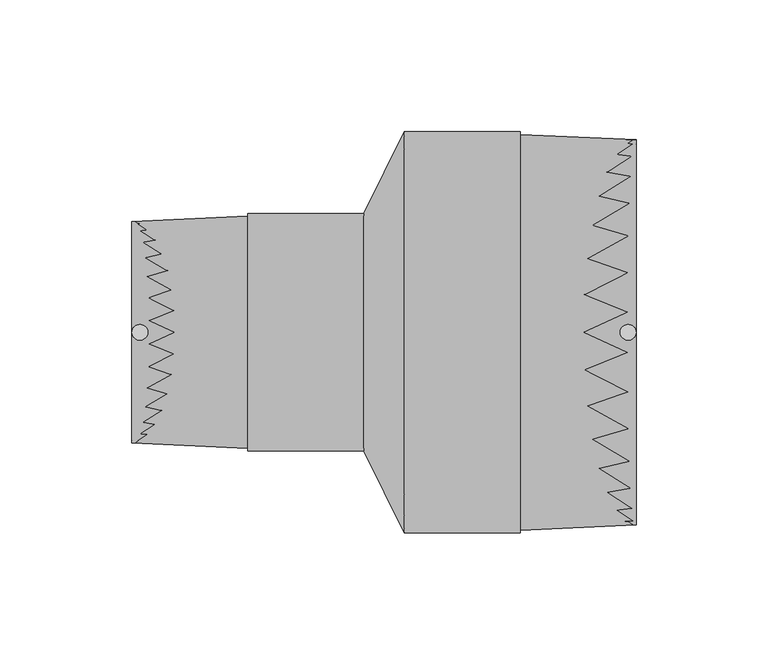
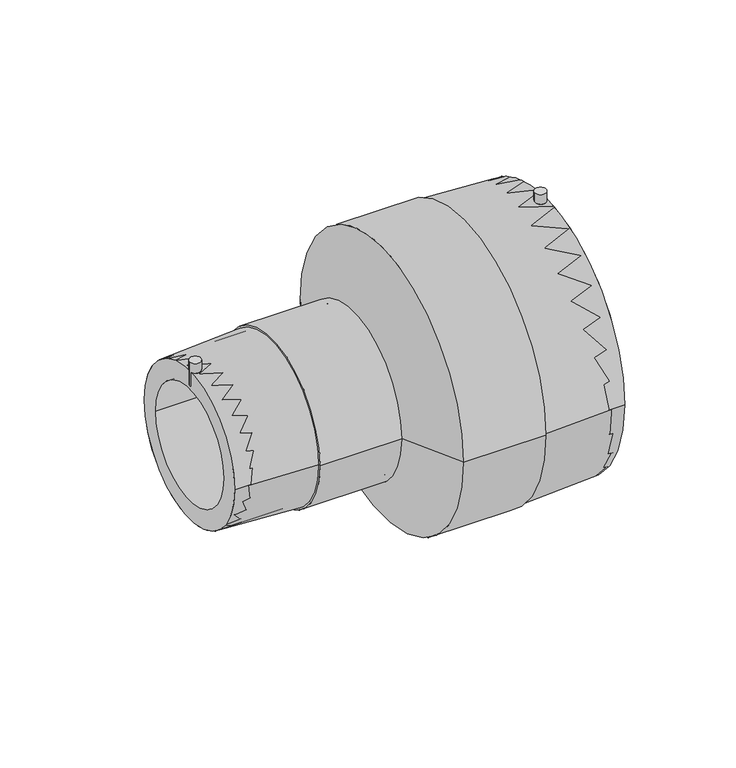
"""IFC4 building model written with IfcOpenShell, lengths in millimetres: pipe fitting geometry, EGB_VASEN_ PPR_Manguito reductor electrosoldable WXRD110 : Manguito reductor electrosoldable WXRD110."""

from ifc_helpers import new_model, si_unit, point, frame, frame_2d, origin, origin_2d, place, context, project, spatial, polyline, circle_curve, trimmed, segment, composite_curve, outline, extrude, source, transform, mapped, element, save
from ifc_brep_helpers import plane_surface, cylinder_surface, revolved_surface, advanced_brep


def pipe_fitting_9c339494(model_context):
    return source(origin(), model_context, "Body", "SolidModel", [
        extrude(outline(composite_curve([segment(trimmed(circle_curve(frame_2d((92.5, 0.0)), 3.0), [point((89.5, 0.0))], [point((95.5, 0.0))], False, "CARTESIAN"), True, "CONTINUOUS"), segment(trimmed(circle_curve(frame_2d((92.5, 0.0)), 3.0), [point((95.5, 0.0))], [point((89.5, 0.0))], False, "CARTESIAN"), True, "CONTINUOUS")], self_intersect=False)), frame((0.0, 0.0, 57.0), z_axis=(0.0, 0.0, 1.0), x_axis=(1.0, 0.0, 0.0)), (0.0, 0.0, 1.0), 21.0),
        extrude(outline(composite_curve([segment(trimmed(circle_curve(frame_2d((-92.5, 0.0)), 3.0), [point((-95.5, 0.0))], [point((-89.5, 0.0))], False, "CARTESIAN"), True, "CONTINUOUS"), segment(trimmed(circle_curve(frame_2d((-92.5, 0.0)), 3.0), [point((-89.5, 0.0))], [point((-95.5, 0.0))], False, "CARTESIAN"), True, "CONTINUOUS")], self_intersect=False)), frame((0.0, 0.0, 33.5), z_axis=(0.0, 0.0, 1.0), x_axis=(1.0, 0.0, 0.0)), (0.0, 0.0, 1.0), 13.5),
        extrude(outline(composite_curve([segment(trimmed(circle_curve(origin_2d(), 73.0), [point((-73.0, 0.0))], [point((73.0, 0.0))], False, "CARTESIAN"), True, "CONTINUOUS"), segment(trimmed(circle_curve(origin_2d(), 73.0), [point((73.0, 0.0))], [point((-73.0, 0.0))], False, "CARTESIAN"), True, "CONTINUOUS")], self_intersect=False), holes=[composite_curve([segment(trimmed(circle_curve(origin_2d(), 55.0), [point((-55.0, 0.0))], [point((55.0, 0.0))], True, "CARTESIAN"), True, "CONTINUOUS"), segment(trimmed(circle_curve(origin_2d(), 55.0), [point((55.0, 0.0))], [point((-55.0, 0.0))], True, "CARTESIAN"), True, "CONTINUOUS")], self_intersect=False)]), frame((7.64, 0.0, 0.0), z_axis=(1.0, 0.0, 0.0), x_axis=(0.0, 1.0, 0.0)), (0.0, 0.0, 1.0), 87.86),
        extrude(outline(composite_curve([segment(trimmed(circle_curve(origin_2d(), 42.0), [point((-42.0, 0.0))], [point((42.0, 0.0))], False, "CARTESIAN"), True, "CONTINUOUS"), segment(trimmed(circle_curve(origin_2d(), 42.0), [point((42.0, 0.0))], [point((-42.0, 0.0))], False, "CARTESIAN"), True, "CONTINUOUS")], self_intersect=False), holes=[composite_curve([segment(trimmed(circle_curve(origin_2d(), 31.5), [point((-31.5, 0.0))], [point((31.5, 0.0))], True, "CARTESIAN"), True, "CONTINUOUS"), segment(trimmed(circle_curve(origin_2d(), 31.5), [point((31.5, 0.0))], [point((-31.5, 0.0))], True, "CARTESIAN"), True, "CONTINUOUS")], self_intersect=False)]), frame((-95.5, 0.0, 0.0), z_axis=(1.0, 0.0, 0.0), x_axis=(0.0, 1.0, 0.0)), (0.0, 0.0, 1.0), 87.86),
        advanced_brep(
        [(7.64, -73.0, 0.0), (7.64, 73.0, 0.0), (-7.64, -42.0, 0.0), (-7.64, 42.0, 0.0)],
        [
            (0, 1, circle_curve(frame((7.64, 0.0, 0.0), z_axis=(1.0, 0.0, 0.0), x_axis=(0.0, -1.0, 0.0)), 73.0)),
            (1, 0, circle_curve(frame((7.64, 0.0, 0.0), z_axis=(1.0, 0.0, 0.0), x_axis=(0.0, 1.0, 0.0)), 73.0)),
            (2, 3, circle_curve(frame((-7.64, 0.0, 0.0), z_axis=(-1.0, 0.0, 0.0), x_axis=(0.0, 1.0, 0.0)), 42.0)),
            (3, 2, circle_curve(frame((-7.64, 0.0, 0.0), z_axis=(-1.0, 0.0, 0.0), x_axis=(0.0, -1.0, 0.0)), 42.0)),
            (3, 1),
            (0, 2),
        ],
        [
            plane_surface(frame((7.64, 0.0, 0.0), z_axis=(1.0, 0.0, 0.0), x_axis=(0.0, 0.0, -1.0))),
            plane_surface(frame((-7.64, 0.0, 0.0), z_axis=(-1.0, 0.0, 0.0), x_axis=(0.0, 0.0, -1.0))),
            revolved_surface(polyline([(-7.640000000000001, 42.00000001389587, 0.0), (7.639999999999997, 73.0, 0.0)]), (-28.3419355, 0.0, 0.0), (1.0, 0.0, 0.0)),
            revolved_surface(polyline([(-7.640000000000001, -42.00000001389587, 0.0), (7.639999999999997, -73.0, 0.0)]), (-28.3419355, 0.0, 0.0), (1.0, 0.0, 0.0)),
        ],
        [
            (0, [[1, 2]]),
            (1, [[3, 4]]),
            (2, [[-4, 5, -1, 6]]),
            (3, [[-3, -6, -2, -5]]),
        ],
    ),
        advanced_brep(
        [(7.64, -73.0, 0.0), (7.64, 73.0, 0.0), (-7.64, 42.0, 0.0), (-7.64, -42.0, 0.0), (95.5, -73.0, 0.0), (95.5, 73.0, 0.0), (51.57, -75.0, 0.0), (51.57, 75.0, 0.0), (51.57, -76.0, 0.0), (51.57, 76.0, 0.0), (7.64, -76.0, 0.0), (7.64, 76.0, 0.0), (-7.64, -45.0, 0.0), (-7.64, 45.0, 0.0), (-51.57, -45.0, 0.0), (-51.57, 45.0, 0.0), (-51.57, -44.0, 0.0), (-51.57, 44.0, 0.0), (-95.5, -42.0, 0.0), (-95.5, 42.0, 0.0)],
        [
            (0, 1, circle_curve(frame((7.64, 0.0, 0.0), z_axis=(1.0, 0.0, 0.0), x_axis=(0.0, 1.0, 0.0)), 73.0)),
            (1, 2),
            (2, 3, circle_curve(frame((-7.64, 0.0, 0.0), z_axis=(-1.0, 0.0, 0.0), x_axis=(0.0, 1.0, 0.0)), 42.0)),
            (3, 0),
            (1, 0, circle_curve(frame((7.64, 0.0, 0.0), z_axis=(1.0, 0.0, 0.0), x_axis=(0.0, 1.0, 0.0)), 73.0)),
            (3, 2, circle_curve(frame((-7.64, 0.0, 0.0), z_axis=(-1.0, 0.0, 0.0), x_axis=(0.0, 1.0, 0.0)), 42.0)),
            (4, 5, circle_curve(frame((95.5, 0.0, 0.0), z_axis=(1.0, 0.0, 0.0), x_axis=(0.0, 1.0, 0.0)), 73.0)),
            (5, 1),
            (0, 4),
            (5, 4, circle_curve(frame((95.5, 0.0, 0.0), z_axis=(1.0, 0.0, 0.0), x_axis=(0.0, 1.0, 0.0)), 73.0)),
            (6, 7, circle_curve(frame((51.57, 0.0, 0.0), z_axis=(1.0, 0.0, 0.0), x_axis=(0.0, 1.0, 0.0)), 75.0)),
            (7, 5),
            (4, 6),
            (7, 6, circle_curve(frame((51.57, 0.0, 0.0), z_axis=(1.0, 0.0, 0.0), x_axis=(0.0, 1.0, 0.0)), 75.0)),
            (8, 9, circle_curve(frame((51.57, 0.0, 0.0), z_axis=(1.0, 0.0, 0.0), x_axis=(0.0, 1.0, 0.0)), 76.0)),
            (9, 7),
            (6, 8),
            (9, 8, circle_curve(frame((51.57, 0.0, 0.0), z_axis=(1.0, 0.0, 0.0), x_axis=(0.0, 1.0, 0.0)), 76.0)),
            (10, 11, circle_curve(frame((7.64, 0.0, 0.0), z_axis=(1.0, 0.0, 0.0), x_axis=(0.0, 1.0, 0.0)), 76.0)),
            (11, 9),
            (8, 10),
            (11, 10, circle_curve(frame((7.64, 0.0, 0.0), z_axis=(1.0, 0.0, 0.0), x_axis=(0.0, 1.0, 0.0)), 76.0)),
            (12, 13, circle_curve(frame((-7.64, 0.0, 0.0), z_axis=(1.0, 0.0, 0.0), x_axis=(0.0, 1.0, 0.0)), 45.0)),
            (13, 11),
            (10, 12),
            (13, 12, circle_curve(frame((-7.64, 0.0, 0.0), z_axis=(1.0, 0.0, 0.0), x_axis=(0.0, 1.0, 0.0)), 45.0)),
            (14, 15, circle_curve(frame((-51.57, 0.0, 0.0), z_axis=(1.0, 0.0, 0.0), x_axis=(0.0, 1.0, 0.0)), 45.0)),
            (15, 13),
            (12, 14),
            (15, 14, circle_curve(frame((-51.57, 0.0, 0.0), z_axis=(1.0, 0.0, 0.0), x_axis=(0.0, 1.0, 0.0)), 45.0)),
            (16, 17, circle_curve(frame((-51.57, 0.0, 0.0), z_axis=(1.0, 0.0, 0.0), x_axis=(0.0, 1.0, 0.0)), 44.0)),
            (17, 15),
            (14, 16),
            (17, 16, circle_curve(frame((-51.57, 0.0, 0.0), z_axis=(1.0, 0.0, 0.0), x_axis=(0.0, 1.0, 0.0)), 44.0)),
            (18, 19, circle_curve(frame((-95.5, 0.0, 0.0), z_axis=(1.0, 0.0, 0.0), x_axis=(0.0, 1.0, 0.0)), 42.0)),
            (19, 17),
            (16, 18),
            (19, 18, circle_curve(frame((-95.5, 0.0, 0.0), z_axis=(1.0, 0.0, 0.0), x_axis=(0.0, 1.0, 0.0)), 42.0)),
            (2, 19),
            (18, 3),
        ],
        [
            revolved_surface(polyline([(-7.64, 42.0, 0.0), (7.64, 73.0, 0.0)]), (-130.5, 0.0, 0.0), (-1.0, 0.0, 0.0)),
            revolved_surface(polyline([(7.639999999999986, 73.0, 0.0), (95.5, 73.0, 0.0)]), (-130.5, 0.0, 0.0), (-1.0, 0.0, 0.0)),
            revolved_surface(polyline([(95.5, 73.0, 0.0), (51.57, 75.0, 0.0)]), (-130.5, 0.0, 0.0), (-1.0, 0.0, 0.0)),
            plane_surface(frame((51.57, 0.0, 0.0), z_axis=(1.0, 0.0, 0.0), x_axis=(0.0, 1.0, 0.0))),
            cylinder_surface(frame((-130.5, 0.0, 0.0), z_axis=(-1.0, 0.0, 0.0), x_axis=(0.0, 1.0, 0.0)), 76.0),
            revolved_surface(polyline([(7.64, 76.0, 0.0), (-7.64, 45.0, 0.0)]), (-130.5, 0.0, 0.0), (-1.0, 0.0, 0.0)),
            cylinder_surface(frame((-130.5, 0.0, 0.0), z_axis=(-1.0, 0.0, 0.0), x_axis=(0.0, 1.0, 0.0)), 45.0),
            plane_surface(frame((-51.57, 0.0, 0.0), z_axis=(-1.0, 0.0, 0.0), x_axis=(0.0, 1.0, 0.0))),
            revolved_surface(polyline([(-51.57, 44.0, 0.0), (-95.5, 42.0, 0.0)]), (-130.5, 0.0, 0.0), (-1.0, 0.0, 0.0)),
            revolved_surface(polyline([(-95.5, 42.0, 0.0), (-7.640000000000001, 42.0, 0.0)]), (-130.5, 0.0, 0.0), (-1.0, 0.0, 0.0)),
        ],
        [
            (0, [[1, 2, 3, 4]]),
            (0, [[5, -4, 6, -2]]),
            (1, [[7, 8, -1, 9]]),
            (1, [[10, -9, -5, -8]]),
            (2, [[11, 12, -7, 13]]),
            (2, [[14, -13, -10, -12]]),
            (3, [[15, 16, -11, 17]]),
            (3, [[18, -17, -14, -16]]),
            (4, [[19, 20, -15, 21]]),
            (4, [[22, -21, -18, -20]]),
            (5, [[23, 24, -19, 25]]),
            (5, [[26, -25, -22, -24]]),
            (6, [[27, 28, -23, 29]]),
            (6, [[30, -29, -26, -28]]),
            (7, [[31, 32, -27, 33]]),
            (7, [[34, -33, -30, -32]]),
            (8, [[35, 36, -31, 37]]),
            (8, [[38, -37, -34, -36]]),
            (9, [[-3, 39, -35, 40]]),
            (9, [[-6, -40, -38, -39]]),
        ],
    ),
    ])


if __name__ == "__main__":
    model = new_model("IFC4")
    model_context = context("Model", 3, world=origin())
    ifc_project = project(units=[si_unit("LENGTHUNIT", "METRE", prefix="MILLI")], contexts=[model_context])
    site = spatial("IfcSite", under=ifc_project)
    building = spatial("IfcBuilding", under=site)
    placement = place(None, origin())
    pipe_fitting_shape = pipe_fitting_9c339494(model_context)
    element("IfcPipeFitting", 1, ObjectType="EGB_VASEN_ PPR_Manguito reductor electrosoldable WXRD110 : Manguito reductor electrosoldable WXRD110", at=placement, inside=building, context=model_context, shape_type="MappedRepresentation", body=[
        mapped(pipe_fitting_shape, transform((0.0, 0.0, 0.0), x_axis=(1.0, 0.0, 0.0), y_axis=(0.0, 1.0, 0.0), z_axis=(0.0, 0.0, 1.0))),
    ])
    save(model, "model.ifc")
